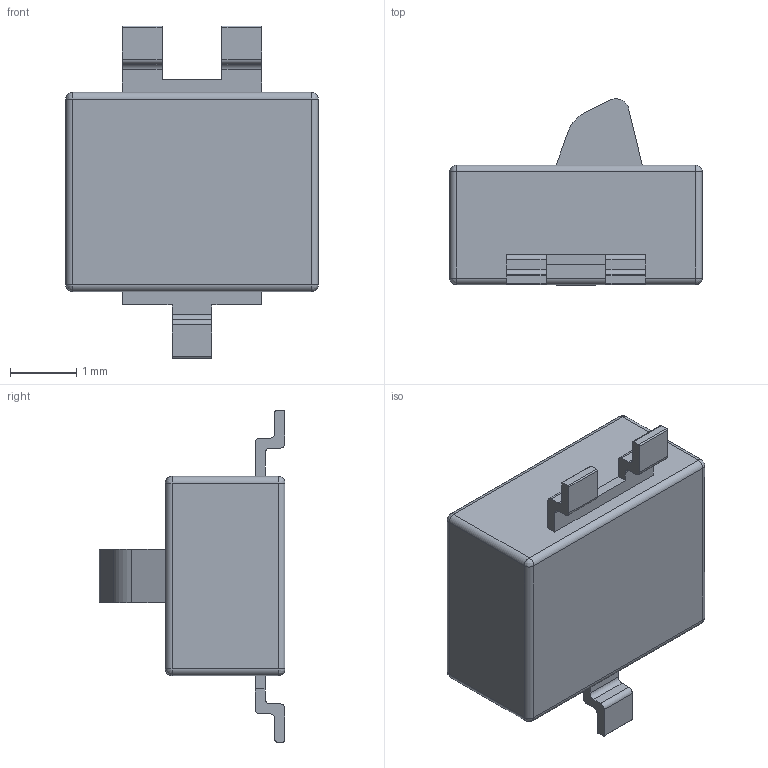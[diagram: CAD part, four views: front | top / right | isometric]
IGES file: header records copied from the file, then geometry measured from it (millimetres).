
Start section:  PTC IGES file: switch-hch-pds101b-e_prt.igs
Global section: file name: switch-hch-pds101b-e_prt.igs; native system: Pro/ENGINEER by Parametric Technology Corporation; preprocessor: 2000030; author: ECaille; organization: Unknown; date: 000803.092137; units: millimetre
Bounding box: 3.8 x 2.8 x 5 mm (x, y, z)
Surface area: 55.1 mm2 (no closed solid volume)
Topology: 0 solids, 0 shells, 81 faces, 662 edges, 916 vertices
Faces by surface type: bspline 41, revolution 40
